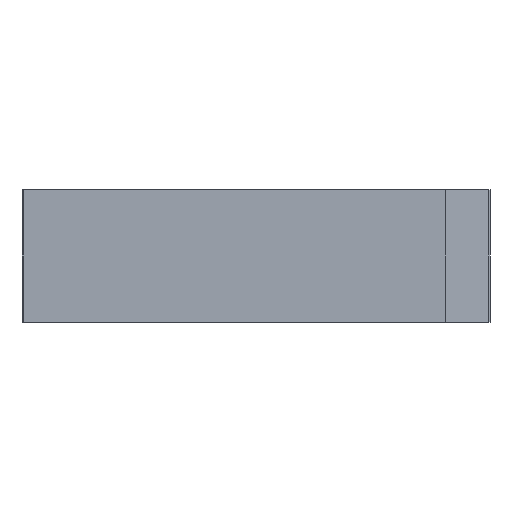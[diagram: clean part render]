
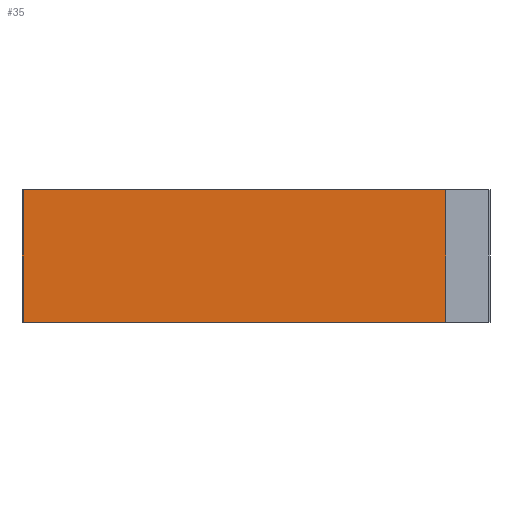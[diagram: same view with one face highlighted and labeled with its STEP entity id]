
A CAD part, left-side view. The second image highlights one B-rep face of the part: STEP entity #35.
In plain terms, the highlighted planar face has unit normal (-1, 0, 0).
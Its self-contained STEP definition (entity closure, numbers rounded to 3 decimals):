
#35 = ADVANCED_FACE('',(#36),#50,.T.);
#36 = FACE_BOUND('',#37,.T.);
#37 = EDGE_LOOP('',(#38,#73,#101,#129));
#38 = ORIENTED_EDGE('',*,*,#39,.T.);
#39 = EDGE_CURVE('',#40,#42,#44,.T.);
#40 = VERTEX_POINT('',#41);
#41 = CARTESIAN_POINT('',(-38.1,-20.091,0.));
#42 = VERTEX_POINT('',#43);
#43 = CARTESIAN_POINT('',(-38.1,-20.091,14.));
#44 = SURFACE_CURVE('',#45,(#49,#61),.PCURVE_S1.);
#45 = LINE('',#46,#47);
#46 = CARTESIAN_POINT('',(-38.1,-20.091,0.));
#47 = VECTOR('',#48,1.);
#48 = DIRECTION('',(0.,0.,1.));
#49 = PCURVE('',#50,#55);
#50 = PLANE('',#51);
#51 = AXIS2_PLACEMENT_3D('',#52,#53,#54);
#52 = CARTESIAN_POINT('',(-38.1,-20.091,0.));
#53 = DIRECTION('',(-1.,0.,0.));
#54 = DIRECTION('',(0.,1.,0.));
#55 = DEFINITIONAL_REPRESENTATION('',(#56),#60);
#56 = LINE('',#57,#58);
#57 = CARTESIAN_POINT('',(0.,0.));
#58 = VECTOR('',#59,1.);
#59 = DIRECTION('',(0.,-1.));
#60 = ( GEOMETRIC_REPRESENTATION_CONTEXT(2) 
PARAMETRIC_REPRESENTATION_CONTEXT() REPRESENTATION_CONTEXT('2D SPACE',''
  ) );
#61 = PCURVE('',#62,#67);
#62 = PLANE('',#63);
#63 = AXIS2_PLACEMENT_3D('',#64,#65,#66);
#64 = CARTESIAN_POINT('',(-33.441,-24.75,0.));
#65 = DIRECTION('',(-0.707,-0.707,0.));
#66 = DIRECTION('',(-0.707,0.707,0.));
#67 = DEFINITIONAL_REPRESENTATION('',(#68),#72);
#68 = LINE('',#69,#70);
#69 = CARTESIAN_POINT('',(6.588,0.));
#70 = VECTOR('',#71,1.);
#71 = DIRECTION('',(0.,-1.));
#72 = ( GEOMETRIC_REPRESENTATION_CONTEXT(2) 
PARAMETRIC_REPRESENTATION_CONTEXT() REPRESENTATION_CONTEXT('2D SPACE',''
  ) );
#73 = ORIENTED_EDGE('',*,*,#74,.T.);
#74 = EDGE_CURVE('',#42,#75,#77,.T.);
#75 = VERTEX_POINT('',#76);
#76 = CARTESIAN_POINT('',(-38.1,24.75,14.));
#77 = SURFACE_CURVE('',#78,(#82,#89),.PCURVE_S1.);
#78 = LINE('',#79,#80);
#79 = CARTESIAN_POINT('',(-38.1,-20.05,14.));
#80 = VECTOR('',#81,1.);
#81 = DIRECTION('',(0.,1.,0.));
#82 = PCURVE('',#50,#83);
#83 = DEFINITIONAL_REPRESENTATION('',(#84),#88);
#84 = LINE('',#85,#86);
#85 = CARTESIAN_POINT('',(0.041,-14.));
#86 = VECTOR('',#87,1.);
#87 = DIRECTION('',(1.,0.));
#88 = ( GEOMETRIC_REPRESENTATION_CONTEXT(2) 
PARAMETRIC_REPRESENTATION_CONTEXT() REPRESENTATION_CONTEXT('2D SPACE',''
  ) );
#89 = PCURVE('',#90,#95);
#90 = PLANE('',#91);
#91 = AXIS2_PLACEMENT_3D('',#92,#93,#94);
#92 = CARTESIAN_POINT('',(0.,0.578,14.));
#93 = DIRECTION('',(-0.,-0.,-1.));
#94 = DIRECTION('',(-1.,0.,0.));
#95 = DEFINITIONAL_REPRESENTATION('',(#96),#100);
#96 = LINE('',#97,#98);
#97 = CARTESIAN_POINT('',(38.1,-20.628));
#98 = VECTOR('',#99,1.);
#99 = DIRECTION('',(0.,1.));
#100 = ( GEOMETRIC_REPRESENTATION_CONTEXT(2) 
PARAMETRIC_REPRESENTATION_CONTEXT() REPRESENTATION_CONTEXT('2D SPACE',''
  ) );
#101 = ORIENTED_EDGE('',*,*,#102,.F.);
#102 = EDGE_CURVE('',#103,#75,#105,.T.);
#103 = VERTEX_POINT('',#104);
#104 = CARTESIAN_POINT('',(-38.1,24.75,0.));
#105 = SURFACE_CURVE('',#106,(#110,#117),.PCURVE_S1.);
#106 = LINE('',#107,#108);
#107 = CARTESIAN_POINT('',(-38.1,24.75,0.));
#108 = VECTOR('',#109,1.);
#109 = DIRECTION('',(0.,0.,1.));
#110 = PCURVE('',#50,#111);
#111 = DEFINITIONAL_REPRESENTATION('',(#112),#116);
#112 = LINE('',#113,#114);
#113 = CARTESIAN_POINT('',(44.841,0.));
#114 = VECTOR('',#115,1.);
#115 = DIRECTION('',(0.,-1.));
#116 = ( GEOMETRIC_REPRESENTATION_CONTEXT(2) 
PARAMETRIC_REPRESENTATION_CONTEXT() REPRESENTATION_CONTEXT('2D SPACE',''
  ) );
#117 = PCURVE('',#118,#123);
#118 = PLANE('',#119);
#119 = AXIS2_PLACEMENT_3D('',#120,#121,#122);
#120 = CARTESIAN_POINT('',(-38.1,24.75,0.));
#121 = DIRECTION('',(-0.,1.,0.));
#122 = DIRECTION('',(1.,0.,-0.));
#123 = DEFINITIONAL_REPRESENTATION('',(#124),#128);
#124 = LINE('',#125,#126);
#125 = CARTESIAN_POINT('',(0.,0.));
#126 = VECTOR('',#127,1.);
#127 = DIRECTION('',(0.,-1.));
#128 = ( GEOMETRIC_REPRESENTATION_CONTEXT(2) 
PARAMETRIC_REPRESENTATION_CONTEXT() REPRESENTATION_CONTEXT('2D SPACE',''
  ) );
#129 = ORIENTED_EDGE('',*,*,#130,.F.);
#130 = EDGE_CURVE('',#40,#103,#131,.T.);
#131 = SURFACE_CURVE('',#132,(#136,#143),.PCURVE_S1.);
#132 = LINE('',#133,#134);
#133 = CARTESIAN_POINT('',(-38.1,-20.05,0.));
#134 = VECTOR('',#135,1.);
#135 = DIRECTION('',(0.,1.,0.));
#136 = PCURVE('',#50,#137);
#137 = DEFINITIONAL_REPRESENTATION('',(#138),#142);
#138 = LINE('',#139,#140);
#139 = CARTESIAN_POINT('',(0.041,0.));
#140 = VECTOR('',#141,1.);
#141 = DIRECTION('',(1.,0.));
#142 = ( GEOMETRIC_REPRESENTATION_CONTEXT(2) 
PARAMETRIC_REPRESENTATION_CONTEXT() REPRESENTATION_CONTEXT('2D SPACE',''
  ) );
#143 = PCURVE('',#144,#149);
#144 = PLANE('',#145);
#145 = AXIS2_PLACEMENT_3D('',#146,#147,#148);
#146 = CARTESIAN_POINT('',(0.,0.578,0.));
#147 = DIRECTION('',(-0.,-0.,-1.));
#148 = DIRECTION('',(-1.,0.,0.));
#149 = DEFINITIONAL_REPRESENTATION('',(#150),#154);
#150 = LINE('',#151,#152);
#151 = CARTESIAN_POINT('',(38.1,-20.628));
#152 = VECTOR('',#153,1.);
#153 = DIRECTION('',(0.,1.));
#154 = ( GEOMETRIC_REPRESENTATION_CONTEXT(2) 
PARAMETRIC_REPRESENTATION_CONTEXT() REPRESENTATION_CONTEXT('2D SPACE',''
  ) );
